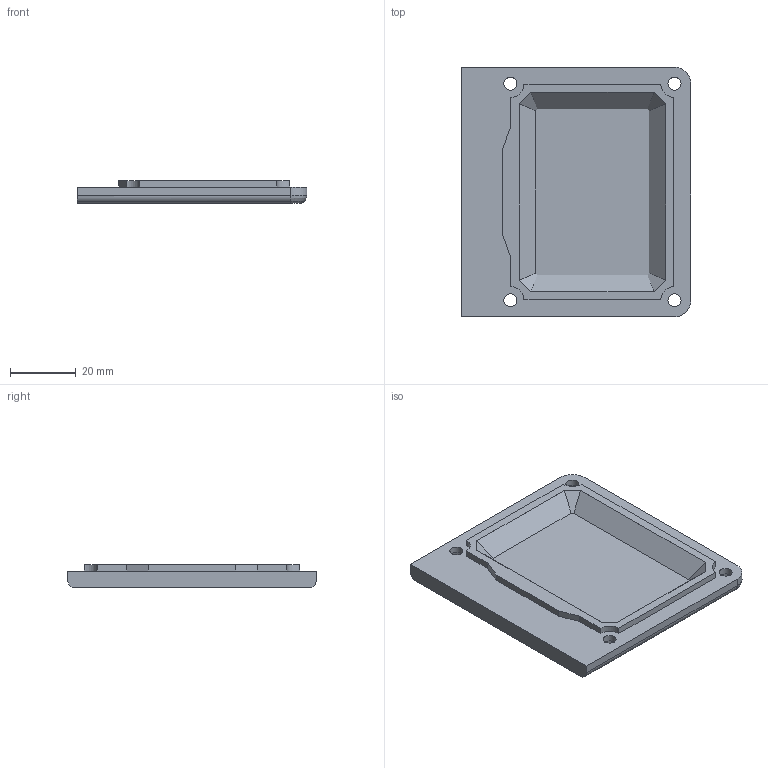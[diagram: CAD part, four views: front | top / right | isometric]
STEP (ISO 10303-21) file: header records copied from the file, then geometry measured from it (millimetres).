
FILE_DESCRIPTION(('FreeCAD Model'),'2;1');
FILE_NAME('Open CASCADE Shape Model','2026-01-28T11:34:33',(''),(''), 'Open CASCADE STEP processor 7.8','FreeCAD','Unknown');
FILE_SCHEMA(('AUTOMOTIVE_DESIGN { 1 0 10303 214 1 1 1 1 }'));
Length unit declared in the file: millimetre
Products named in the file (2): Lower Cover Part; Lower Cover Body
Assembly tree (1 placements, depth 2):
  Lower Cover Part
    Lower Cover Body
Bounding box: 70 x 76 x 7 mm (x, y, z)
Volume: 21260.9 mm3; surface area: 12945.2 mm2
Topology: 1 solids, 1 shells, 62 faces, 146 edges, 92 vertices
Faces by surface type: plane 41, cylinder 17, bspline 2, cone 2
Full cylindrical faces by diameter (mm): 4 x4, 7 x4
Entity records: 3878 total; most frequent: CARTESIAN_POINT 854, DIRECTION 564, LINE 362, VECTOR 362, ORIENTED_EDGE 292, PCURVE 292, DEFINITIONAL_REPRESENTATION 292, EDGE_CURVE 146
